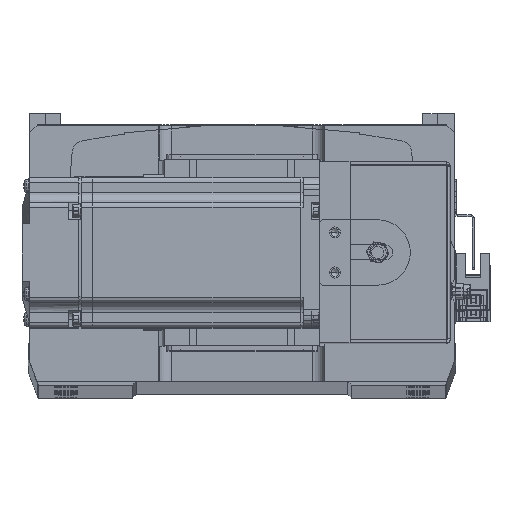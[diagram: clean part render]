
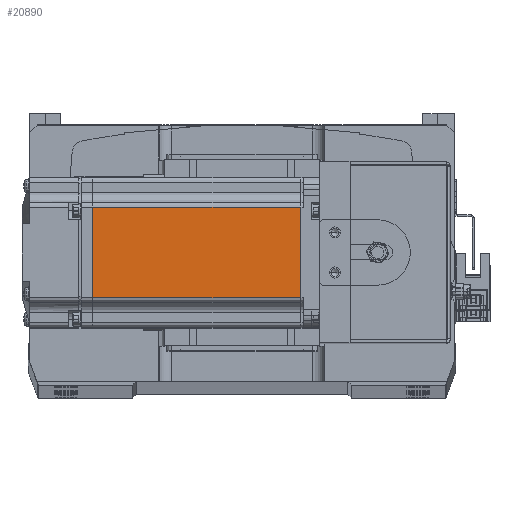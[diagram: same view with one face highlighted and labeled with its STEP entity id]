
A CAD part, top view. The second image highlights one B-rep face of the part: STEP entity #20890.
In plain terms, the highlighted planar face has unit normal (0, 0, 1) as drawn and (0, 1, 0) by its records, which use the part's own axes.
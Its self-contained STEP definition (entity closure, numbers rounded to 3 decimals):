
#615 = DIRECTION ( 'NONE',  ( 0., 0., 1. ) ) ;
#1184 = CARTESIAN_POINT ( 'NONE',  ( -7.75, 30., -18. ) ) ;
#3323 = VECTOR ( 'NONE', #13336, 1000. ) ;
#6744 = EDGE_CURVE ( 'NONE', #24982, #20901, #33598, .T. ) ;
#8642 = VECTOR ( 'NONE', #615, 1000. ) ;
#11465 = PLANE ( 'NONE',  #18723 ) ;
#13336 = DIRECTION ( 'NONE',  ( -1., 0., 0. ) ) ;
#14816 = LINE ( 'NONE', #21210, #31146 ) ;
#14852 = DIRECTION ( 'NONE',  ( 0., 0., 1. ) ) ;
#15465 = DIRECTION ( 'NONE',  ( 1., 0., 0. ) ) ;
#17122 = VERTEX_POINT ( 'NONE', #1184 ) ;
#17448 = EDGE_CURVE ( 'NONE', #17122, #20901, #40742, .T. ) ;
#18414 = FACE_OUTER_BOUND ( 'NONE', #25904, .T. ) ;
#18723 = AXIS2_PLACEMENT_3D ( 'NONE', #36323, #29136, #14852 ) ;
#20344 = CARTESIAN_POINT ( 'NONE',  ( -90.45, 30., -18. ) ) ;
#20890 = ADVANCED_FACE ( 'NONE', ( #18414 ), #11465, .T. ) ;
#20901 = VERTEX_POINT ( 'NONE', #22441 ) ;
#21210 = CARTESIAN_POINT ( 'NONE',  ( -90.45, 30., 0. ) ) ;
#22441 = CARTESIAN_POINT ( 'NONE',  ( -7.75, 30., 18. ) ) ;
#24145 = EDGE_CURVE ( 'NONE', #42579, #24982, #14816, .T. ) ;
#24982 = VERTEX_POINT ( 'NONE', #40704 ) ;
#25630 = CARTESIAN_POINT ( 'NONE',  ( -7.75, 30., 0. ) ) ;
#25904 = EDGE_LOOP ( 'NONE', ( #31061, #35743, #28578, #33501 ) ) ;
#28578 = ORIENTED_EDGE ( 'NONE', *, *, #24145, .T. ) ;
#29136 = DIRECTION ( 'NONE',  ( 0., 1., 0. ) ) ;
#29340 = DIRECTION ( 'NONE',  ( 0., 0., 1. ) ) ;
#31061 = ORIENTED_EDGE ( 'NONE', *, *, #17448, .F. ) ;
#31146 = VECTOR ( 'NONE', #29340, 1000. ) ;
#33501 = ORIENTED_EDGE ( 'NONE', *, *, #6744, .T. ) ;
#33598 = LINE ( 'NONE', #41258, #34294 ) ;
#34294 = VECTOR ( 'NONE', #15465, 1000. ) ;
#35743 = ORIENTED_EDGE ( 'NONE', *, *, #44492, .T. ) ;
#36323 = CARTESIAN_POINT ( 'NONE',  ( -6.5, 30., 25. ) ) ;
#40704 = CARTESIAN_POINT ( 'NONE',  ( -90.45, 30., 18. ) ) ;
#40742 = LINE ( 'NONE', #25630, #8642 ) ;
#41258 = CARTESIAN_POINT ( 'NONE',  ( -6.5, 30., 18. ) ) ;
#42579 = VERTEX_POINT ( 'NONE', #20344 ) ;
#42942 = CARTESIAN_POINT ( 'NONE',  ( -6.5, 30., -18. ) ) ;
#44492 = EDGE_CURVE ( 'NONE', #17122, #42579, #46081, .T. ) ;
#46081 = LINE ( 'NONE', #42942, #3323 ) ;
